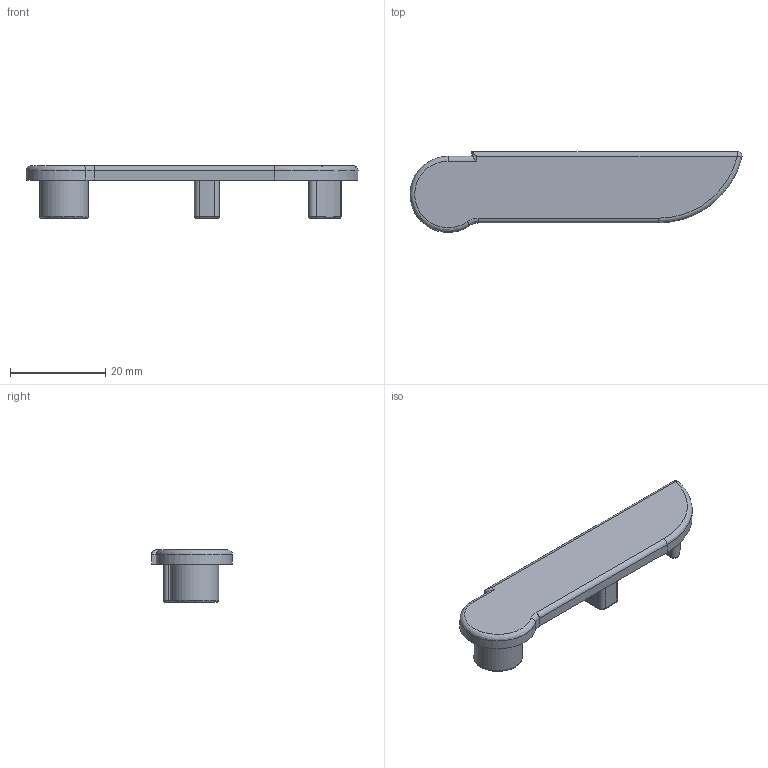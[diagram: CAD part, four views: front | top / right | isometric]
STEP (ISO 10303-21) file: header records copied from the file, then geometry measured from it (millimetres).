
FILE_DESCRIPTION (( 'STEP AP214' ), '1' );
FILE_NAME ('L21123.step', '2024-12-03T16:25:18', ( '' ), ( '' ), 'SwSTEP 2.0', 'SolidWorks 2023', '' );
FILE_SCHEMA (( 'AUTOMOTIVE_DESIGN' ));
Length unit declared in the file: millimetre
Products named in the file (1): L21123
Bounding box: 69.77 x 16.98 x 11 mm (x, y, z)
Volume: 3310.8 mm3; surface area: 3585.6 mm2
Topology: 1 solids, 1 shells, 69 faces, 163 edges, 101 vertices
Faces by surface type: cylinder 32, plane 24, bspline 13
Full cylindrical faces by diameter (mm): 8.5 x1, 10.25 x1
Entity records: 2287 total; most frequent: CARTESIAN_POINT 733, DIRECTION 322, ORIENTED_EDGE 318, EDGE_CURVE 159, AXIS2_PLACEMENT_3D 122, VERTEX_POINT 101, LINE 78, EDGE_LOOP 78
